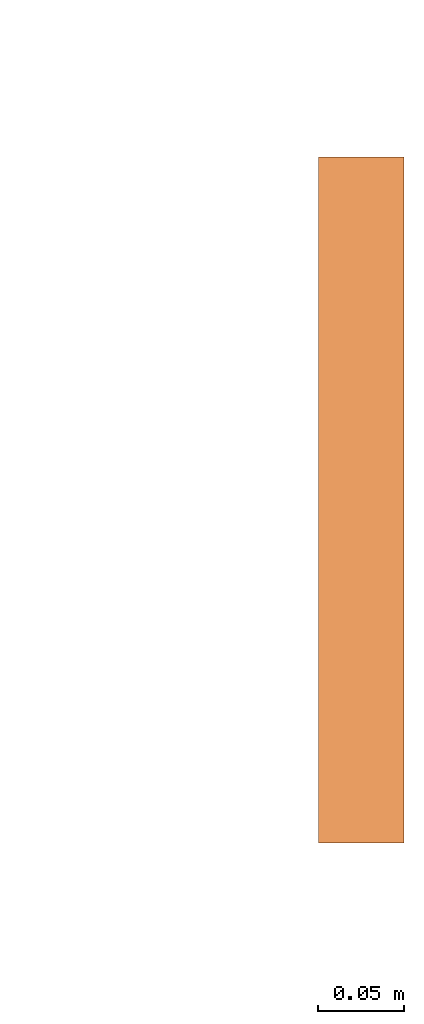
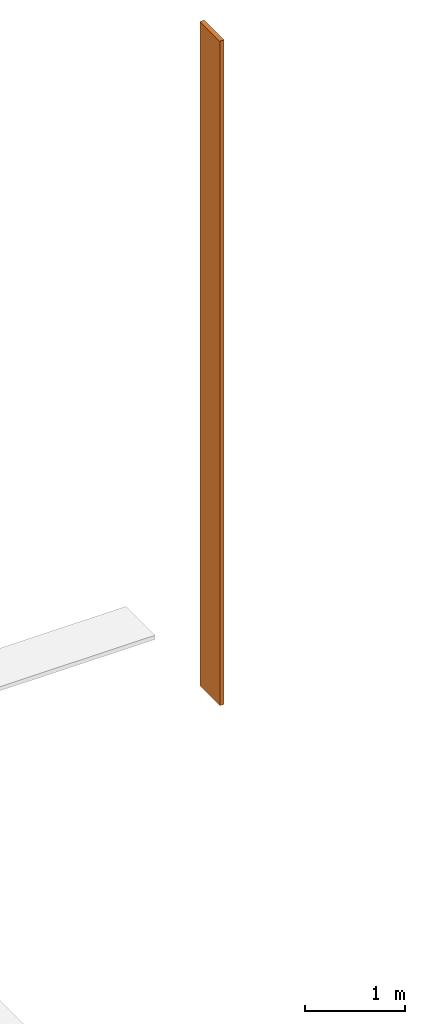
# One storey, part 2 of 2: 1 proxy.
"""IFC2X3 building model written with IfcOpenShell, lengths in centimetres."""

import ifcopenshell
import ifcopenshell.guid

model = None  # the IFC model being written
_history = None  # IfcOwnerHistory: only IFC2X3 demands one
_inside = {}  # id of a spatial element -> (the spatial element, [elements in it])
_under = {}  # id of a project, library or spatial element -> (it, [spatial elements below it])
_declared = {}  # id of a project -> (the project, [libraries it declares])
_typed = {}  # id of a type object -> (the type object, [elements of that type])
_made_of = {}  # id of a material, layer set ... -> (it, [elements and type objects made of it])


def new_model(schema):
    """Start an empty IFC model of exactly this schema.

    Asked for "IFC4X3", IfcOpenShell would pick the latest addendum, in which some entities
    have other attributes; the version numbers below select the first issue.
    IFC2X3 requires an IfcOwnerHistory on every rooted entity: one is made here for all.
    """
    global model, _history
    if schema == "IFC4X3":
        model = ifcopenshell.file(schema_version=(4, 3, 0, 0))
    else:
        model = ifcopenshell.file(schema=schema)
    _inside.clear()
    _under.clear()
    _declared.clear()
    _typed.clear()
    _made_of.clear()
    _history = None
    if model.schema == "IFC2X3":
        org = make("IfcOrganization", Name="unknown")
        user = make(
            "IfcPersonAndOrganization",
            ThePerson=make("IfcPerson", FamilyName="unknown"),
            TheOrganization=org,
        )
        app = make(
            "IfcApplication",
            ApplicationDeveloper=org,
            Version="unknown",
            ApplicationFullName="unknown",
            ApplicationIdentifier="unknown",
        )
        _history = make(
            "IfcOwnerHistory",
            OwningUser=user,
            OwningApplication=app,
            ChangeAction="ADDED",
            CreationDate=0,
        )
    return model


def make(cls, **values):
    """One entity of the class cls with the attributes given. An attribute that is None is left unset."""
    return model.create_entity(
        cls, **{name: value for name, value in values.items() if value is not None}
    )


def entity(cls, *values):
    """Any entity or typed value of the class cls, its attributes in the order of the schema. None: left unset."""
    e = model.create_entity(cls)
    for i, value in enumerate(values):
        if value is not None:
            e[i] = value
    return e


def rooted(cls, **values):
    """An entity with a GlobalId (a new one), such as an element, a storey or a relation."""
    return make(cls, GlobalId=ifcopenshell.guid.new(), OwnerHistory=_history, **values)


def si_unit(unit_type, name, prefix=None):
    """IfcSIUnit, for example si_unit("LENGTHUNIT", "METRE", prefix="MILLI")."""
    return make("IfcSIUnit", UnitType=unit_type, Prefix=prefix, Name=name)


def converted_unit(unit_type, name, factor, base, dimensions=None, offset=None):
    """IfcConversionBasedUnit, such as the inch: factor (a typed value) times the base unit."""
    return make(
        "IfcConversionBasedUnit"
        if offset is None
        else "IfcConversionBasedUnitWithOffset",
        ConversionOffset=offset,
        Dimensions=None
        if dimensions is None
        else entity("IfcDimensionalExponents", *dimensions),
        UnitType=unit_type,
        Name=name,
        ConversionFactor=make(
            "IfcMeasureWithUnit", ValueComponent=factor, UnitComponent=base
        ),
    )


def derived_unit(unit_type, elements):
    """IfcDerivedUnit: a product of units, each with its exponent."""
    return make(
        "IfcDerivedUnit",
        Elements=[
            make("IfcDerivedUnitElement", Unit=unit, Exponent=power)
            for unit, power in elements
        ],
        UnitType=unit_type,
    )


def assignment(units):
    """IfcUnitAssignment: the units of a project."""
    return None if units is None else make("IfcUnitAssignment", Units=units)


def point(xyz):
    """IfcCartesianPoint."""
    return None if xyz is None else make("IfcCartesianPoint", Coordinates=xyz)


def direction(xyz):
    """IfcDirection."""
    return None if xyz is None else make("IfcDirection", DirectionRatios=xyz)


def frame(location, z_axis=None, x_axis=None):
    """IfcAxis2Placement3D, a coordinate frame: its origin and axes. An axis left out is left unset."""
    return make(
        "IfcAxis2Placement3D",
        Location=point(location),
        Axis=direction(z_axis),
        RefDirection=direction(x_axis),
    )


def frame_2d(location, x_axis=None):
    """IfcAxis2Placement2D, a coordinate frame in the plane: its origin and x axis."""
    return make(
        "IfcAxis2Placement2D", Location=point(location), RefDirection=direction(x_axis)
    )


def origin():
    """The frame at (0, 0, 0) with its axes left unset."""
    return frame((0.0, 0.0, 0.0))


def place(relative_to, where):
    """IfcLocalPlacement: puts the frame where relative to a parent placement (None: the world)."""
    return make(
        "IfcLocalPlacement", PlacementRelTo=relative_to, RelativePlacement=where
    )


def context(
    kind, dimensions, precision=None, world=None, true_north=None, identifier=None
):
    """IfcGeometricRepresentationContext, for example the 3D "Model" context."""
    return make(
        "IfcGeometricRepresentationContext",
        ContextIdentifier=identifier,
        ContextType=kind,
        CoordinateSpaceDimension=dimensions,
        Precision=precision,
        WorldCoordinateSystem=world,
        TrueNorth=true_north,
    )


def subcontext(parent, identifier, kind, view, scale=None):
    """IfcGeometricRepresentationSubContext, for example "Body" below "Model"."""
    return make(
        "IfcGeometricRepresentationSubContext",
        ContextIdentifier=identifier,
        ContextType=kind,
        ParentContext=parent,
        TargetScale=scale,
        TargetView=view,
    )


def project(units=None, contexts=None):
    """IfcProject with its units and contexts."""
    return rooted(
        "IfcProject",
        Name="project",
        RepresentationContexts=contexts,
        UnitsInContext=assignment(units),
    )


def spatial(cls, under=None, at=None, **own):
    """A site, building, storey or space (cls), placed at a placement, below another one or the project."""
    s = rooted(cls, ObjectPlacement=at, **own)
    if under is not None:
        _under.setdefault(under.id(), (under, []))[1].append(s)
    return s


def profile(cls, at=None, kind="AREA", **sizes):
    """A parametric profile (cls). Its sizes go by their IFC names, for example OverallWidth=200.0."""
    return make(cls, ProfileType=kind, Position=at, **sizes)


def rectangle(**sizes):
    """IfcRectangleProfileDef."""
    return profile("IfcRectangleProfileDef", **sizes)


def extrude(swept, where, along, depth):
    """IfcExtrudedAreaSolid: the profile swept, set in the frame where, extruded along a direction by depth."""
    return make(
        "IfcExtrudedAreaSolid",
        SweptArea=swept,
        Position=where,
        ExtrudedDirection=direction(along),
        Depth=depth,
    )


def shape(context_of_items, identifier, shape_type, items):
    """IfcShapeRepresentation: the items that make up one representation, for example the "Body"."""
    return make(
        "IfcShapeRepresentation",
        ContextOfItems=context_of_items,
        RepresentationIdentifier=identifier,
        RepresentationType=shape_type,
        Items=items,
    )


def source(mapping_origin, context_of_items, identifier, shape_type, items):
    """IfcRepresentationMap: a shape defined once, which mapped items show again and again."""
    return make(
        "IfcRepresentationMap",
        MappingOrigin=mapping_origin,
        MappedRepresentation=shape(context_of_items, identifier, shape_type, items),
    )


def transform(
    local_origin,
    x_axis=None,
    y_axis=None,
    z_axis=None,
    scale=None,
    scale2=None,
    scale3=None,
    uniform=True,
):
    """IfcCartesianTransformationOperator3D, or its non-uniform kind. x_axis, y_axis, z_axis: its Axis1, 2, 3."""
    if uniform:
        return make(
            "IfcCartesianTransformationOperator3D",
            Axis1=direction(x_axis),
            Axis2=direction(y_axis),
            LocalOrigin=point(local_origin),
            Scale=scale,
            Axis3=direction(z_axis),
        )
    return make(
        "IfcCartesianTransformationOperator3DnonUniform",
        Axis1=direction(x_axis),
        Axis2=direction(y_axis),
        LocalOrigin=point(local_origin),
        Scale=scale,
        Axis3=direction(z_axis),
        Scale2=scale2,
        Scale3=scale3,
    )


def mapped(mapping_source, mapping_target):
    """IfcMappedItem: shows the shape of a source again, moved by a transform."""
    return make(
        "IfcMappedItem", MappingSource=mapping_source, MappingTarget=mapping_target
    )


def material(Name=None, Category=None):
    """IfcMaterial."""
    return make("IfcMaterial", Name=Name, Category=Category)


def made_of(thing, what):
    """Note that an element or type object is made of a material, layer set ...; save() writes the relation."""
    if what is not None:
        _made_of.setdefault(what.id(), (what, []))[1].append(thing)
    return thing


def type_object(cls, material=None, **own):
    """A type object (cls), such as IfcWallType, which elements share."""
    return made_of(rooted(cls, **own), material)


def type_shapes(of_type, sources):
    """Give a type object the sources (RepresentationMaps) that its elements show as mapped items."""
    of_type.RepresentationMaps = sources


def element(
    cls,
    number,
    at=None,
    inside=None,
    cuts=None,
    type_object=None,
    material=None,
    context=None,
    identifier="Body",
    shape_type=None,
    held_by="IfcProductDefinitionShape",
    body=None,
    shapes=None,
    **own,
):
    """One element of the class cls, such as IfcWall. Its Tag is "e" and its number.

    at: its placement. inside: the storey or other place that contains it. cuts: it is an
    opening in that element (IfcRelVoidsElement). A single representation is given by context,
    identifier, shape_type and body (its items); several are given by shapes. held_by: the class
    of the entity that holds the representations. save() writes the other relations.
    """
    e = rooted(cls, Tag="e%d" % number, ObjectPlacement=at, **own)
    if body is not None:
        shapes = [shape(context, identifier, shape_type, body)]
    if shapes is not None:
        e.Representation = make(held_by, Representations=shapes)
    if inside is not None:
        _inside.setdefault(inside.id(), (inside, []))[1].append(e)
    if cuts is not None:
        rooted(
            "IfcRelVoidsElement", RelatingBuildingElement=cuts, RelatedOpeningElement=e
        )
    if type_object is not None:
        _typed.setdefault(type_object.id(), (type_object, []))[1].append(e)
    return made_of(e, material)


def aggregate(whole, parts):
    """IfcRelAggregates: a whole, such as a stair, and the parts it consists of."""
    return rooted("IfcRelAggregates", RelatingObject=whole, RelatedObjects=parts)


def save(model, path):
    """Write the relations noted so far, then the file.

    IfcRelAggregates (storeys below a building ...), IfcRelContainedInSpatialStructure (elements
    in a storey), IfcRelDefinesByType, IfcRelAssociatesMaterial and IfcRelDeclares: one each for
    every whole, place, type object, material and project.
    """
    for whole, parts in _under.values():
        aggregate(whole, parts)
    for where, things in _inside.values():
        rooted(
            "IfcRelContainedInSpatialStructure",
            RelatedElements=things,
            RelatingStructure=where,
        )
    for kind, things in _typed.values():
        rooted("IfcRelDefinesByType", RelatedObjects=things, RelatingType=kind)
    for what, things in _made_of.values():
        rooted("IfcRelAssociatesMaterial", RelatedObjects=things, RelatingMaterial=what)
    for by, libraries in _declared.values():
        rooted("IfcRelDeclares", RelatingContext=by, RelatedDefinitions=libraries)
    model.write(path)


model = new_model("IFC2X3")

# Units and contexts
model_context = context("Model", 3, precision=0.001, world=origin(), true_north=direction((6.12303176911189e-17, 1.0)))
body_context = subcontext(model_context, "Body", "Model", "MODEL_VIEW")
ifc_project = project(units=[si_unit("LENGTHUNIT", "METRE", prefix="CENTI"), si_unit("AREAUNIT", "SQUARE_METRE"), si_unit("VOLUMEUNIT", "CUBIC_METRE"), converted_unit("PLANEANGLEUNIT", "DEGREE", entity("IfcRatioMeasure", 0.0174532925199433), si_unit("PLANEANGLEUNIT", "RADIAN"), dimensions=[0, 0, 0, 0, 0, 0, 0]), si_unit("MASSUNIT", "GRAM", prefix="KILO"), derived_unit("MASSDENSITYUNIT", [(si_unit("MASSUNIT", "GRAM", prefix="KILO"), 1), (si_unit("LENGTHUNIT", "METRE"), -3)]), si_unit("TIMEUNIT", "SECOND"), si_unit("FREQUENCYUNIT", "HERTZ"), si_unit("THERMODYNAMICTEMPERATUREUNIT", "DEGREE_CELSIUS"), derived_unit("THERMALTRANSMITTANCEUNIT", [(si_unit("MASSUNIT", "GRAM", prefix="KILO"), 1), (si_unit("THERMODYNAMICTEMPERATUREUNIT", "KELVIN"), -1), (si_unit("TIMEUNIT", "SECOND"), -3)]), derived_unit("VOLUMETRICFLOWRATEUNIT", [(si_unit("LENGTHUNIT", "METRE"), 3), (si_unit("TIMEUNIT", "SECOND"), -1)]), si_unit("ELECTRICCURRENTUNIT", "AMPERE"), si_unit("ELECTRICVOLTAGEUNIT", "VOLT"), si_unit("POWERUNIT", "WATT"), si_unit("FORCEUNIT", "NEWTON", prefix="KILO"), si_unit("ILLUMINANCEUNIT", "LUX"), si_unit("LUMINOUSFLUXUNIT", "LUMEN"), si_unit("LUMINOUSINTENSITYUNIT", "CANDELA"), derived_unit("USERDEFINED", [(si_unit("MASSUNIT", "GRAM", prefix="KILO"), -1), (si_unit("LENGTHUNIT", "METRE"), -2), (si_unit("TIMEUNIT", "SECOND"), 3), (si_unit("LUMINOUSFLUXUNIT", "LUMEN"), 1)]), derived_unit("LINEARVELOCITYUNIT", [(si_unit("LENGTHUNIT", "METRE"), 1), (si_unit("TIMEUNIT", "SECOND"), -1)]), si_unit("PRESSUREUNIT", "PASCAL"), derived_unit("USERDEFINED", [(si_unit("LENGTHUNIT", "METRE"), -2), (si_unit("MASSUNIT", "GRAM", prefix="KILO"), 1), (si_unit("TIMEUNIT", "SECOND"), -2)])], contexts=[model_context])

# Site, building, storey
site_placement = place(None, frame((-2781.94577612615, 7442.24238424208, 0.0)))
site = spatial("IfcSite", under=ifc_project, at=site_placement, Name="Default", CompositionType="ELEMENT")
building_placement = place(site_placement, origin())
building = spatial("IfcBuilding", under=site, at=building_placement, CompositionType="ELEMENT")
storey_placement = place(building_placement, frame((0.0, 0.0, 375.0)))
storey = spatial("IfcBuildingStorey", under=building, at=storey_placement, Name="TR - Cuisine/préau", CompositionType="ELEMENT", Elevation=374.999999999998)

# Proxy
ifc_material = material(Name="Aluminium")
building_element_proxy_type = type_object("IfcBuildingElementProxyType", Name="Menneau extrémité façade", PredefinedType="NOTDEFINED", material=ifc_material)
shared_shape = source(origin(), body_context, "Body", "SweptSolid", [
    extrude(rectangle(XDim=4.99999684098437, YDim=40.0000000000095, at=frame_2d((8.66418048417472e-13, -2.16715534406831e-13), x_axis=(1.0, 0.0))), frame((-8426.99987924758, -2060.07903364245, 367.449291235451), z_axis=(0.0, 0.0, 1.0), x_axis=(-1.0, 0.0, 0.0)), (0.0, 0.0, 1.0), 809.050708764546),
])
type_shapes(building_element_proxy_type, [shared_shape])
proxy_placement = place(storey_placement, frame((0.0, 0.0, -375.0)))
element("IfcBuildingElementProxy", 1, at=proxy_placement, inside=storey, type_object=building_element_proxy_type, material=ifc_material, Name="Menneau extrémité façade4:Menneau extrémité façade", ObjectType="Menneau extrémité façade4:Menneau extrémité façade", context=body_context, shape_type="MappedRepresentation", body=[
    mapped(shared_shape, transform((0.0, 0.0, 0.0), scale=1.0)),
])

save(model, "model.ifc")
